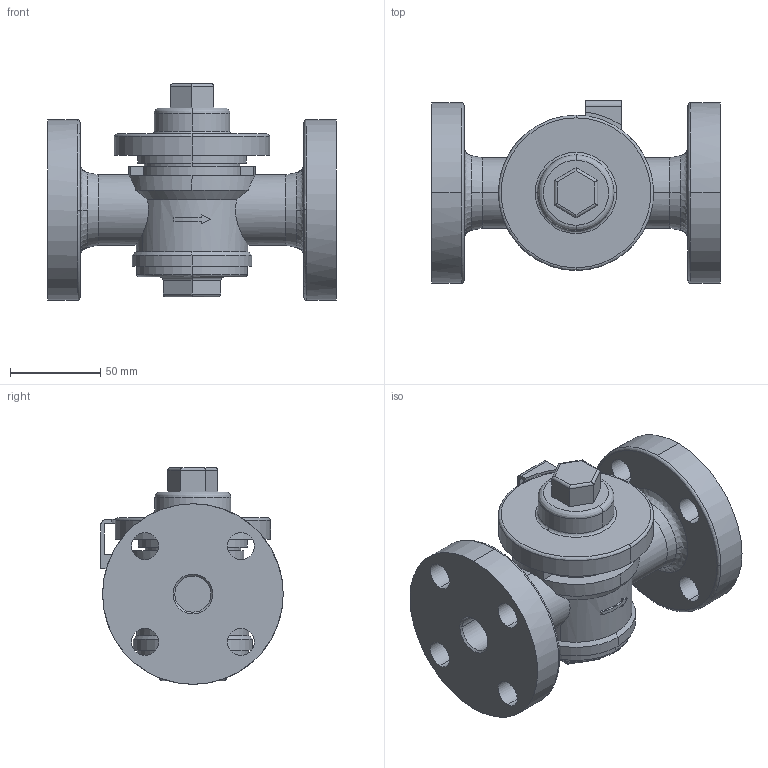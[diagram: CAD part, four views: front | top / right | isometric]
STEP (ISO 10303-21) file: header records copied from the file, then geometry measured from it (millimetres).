
FILE_DESCRIPTION( (''), '2;1');
FILE_NAME ('PC1027.12188.TS-8 20A_608.stp','2025-07-31T16:17:14',(''),(''),'spGate 20.6.3 (****-****-****-****)','','');
FILE_SCHEMA (('AUTOMOTIVE_DESIGN'));
Length unit declared in the file: millimetre
Products named in the file (2): Assembly; TS-8 20A
Assembly tree (1 placements, depth 2):
  Assembly
    TS-8 20A
Bounding box: 160 x 101 x 120 mm (x, y, z)
Volume: 655884.3 mm3; surface area: 88668.7 mm2
Topology: 1 solids, 1 shells, 143 faces, 363 edges, 232 vertices
Faces by surface type: cylinder 68, plane 46, bspline 29
Entity records: 7852 total; most frequent: CARTESIAN_POINT 1709, ORIENTED_EDGE 722, DIRECTION 628, COLOUR_RGB 505, PRESENTATION_STYLE_ASSIGNMENT 505, STYLED_ITEM 505, EDGE_CURVE 361, DRAUGHTING_PRE_DEFINED_CURVE_FONT 361
